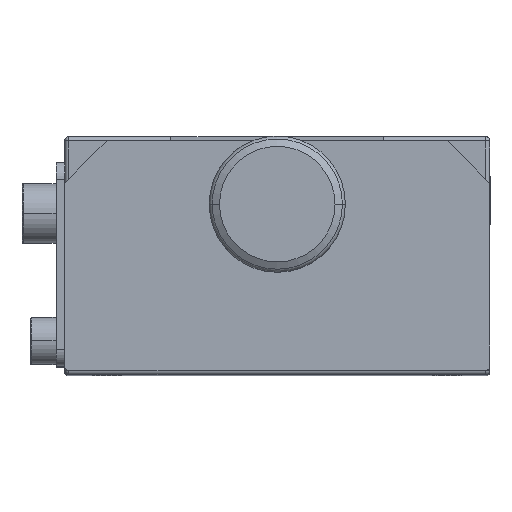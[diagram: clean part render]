
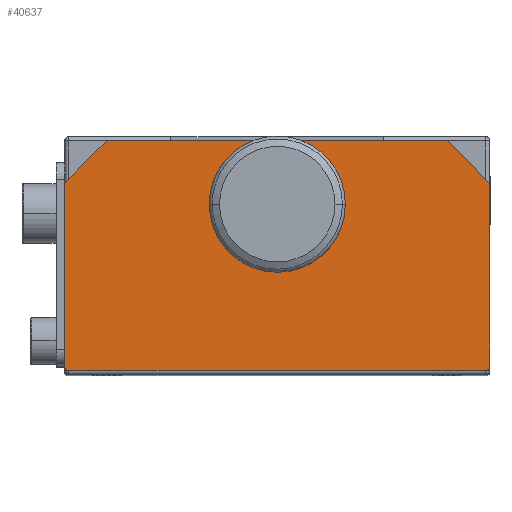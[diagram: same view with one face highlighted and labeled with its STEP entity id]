
A CAD part, top view. The second image highlights one B-rep face of the part: STEP entity #40637.
In plain terms, the highlighted planar face has unit normal (0, 0, 1).
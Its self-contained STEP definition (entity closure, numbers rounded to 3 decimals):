
#921 = VERTEX_POINT ( 'NONE', #40261 ) ;
#1006 = VERTEX_POINT ( 'NONE', #40992 ) ;
#1349 = VERTEX_POINT ( 'NONE', #52872 ) ;
#1431 = AXIS2_PLACEMENT_3D ( 'NONE', #35340, #5668, #40344 ) ;
#4192 = EDGE_CURVE ( 'NONE', #48532, #48768, #59375, .T. ) ;
#4399 = ORIENTED_EDGE ( 'NONE', *, *, #24925, .F. ) ;
#4800 = LINE ( 'NONE', #40225, #55991 ) ;
#4929 = DIRECTION ( 'NONE',  ( 0., 0., 1. ) ) ;
#5203 = VERTEX_POINT ( 'NONE', #42140 ) ;
#5289 = CARTESIAN_POINT ( 'NONE',  ( 0.05, 19.49, 48. ) ) ;
#5668 = DIRECTION ( 'NONE',  ( 0., 0., 1. ) ) ;
#6253 = DIRECTION ( 'NONE',  ( 1., 0., 0. ) ) ;
#6436 = CARTESIAN_POINT ( 'NONE',  ( 25., 14.5, 48. ) ) ;
#7200 = EDGE_CURVE ( 'NONE', #1349, #921, #61438, .T. ) ;
#9247 = LINE ( 'NONE', #57114, #12407 ) ;
#9645 = VERTEX_POINT ( 'NONE', #6436 ) ;
#9817 = EDGE_CURVE ( 'NONE', #35774, #1006, #57412, .T. ) ;
#9920 = DIRECTION ( 'NONE',  ( 0., -1., 0. ) ) ;
#10209 = VERTEX_POINT ( 'NONE', #33707 ) ;
#10502 = AXIS2_PLACEMENT_3D ( 'NONE', #24636, #59252, #29647 ) ;
#11048 = CARTESIAN_POINT ( 'NONE',  ( 0., 10., 48. ) ) ;
#11450 = ORIENTED_EDGE ( 'NONE', *, *, #42864, .T. ) ;
#12407 = VECTOR ( 'NONE', #22682, 1000. ) ;
#12757 = CARTESIAN_POINT ( 'NONE',  ( -24.5, -7., 48. ) ) ;
#12775 = DIRECTION ( 'NONE',  ( -0.707, -0.707, 0. ) ) ;
#13856 = CARTESIAN_POINT ( 'NONE',  ( -25., -7., 48. ) ) ;
#14001 = CARTESIAN_POINT ( 'NONE',  ( 0., 12., 48. ) ) ;
#14179 = LINE ( 'NONE', #45048, #27370 ) ;
#15085 = DIRECTION ( 'NONE',  ( 0., 0., 1. ) ) ;
#15604 = CARTESIAN_POINT ( 'NONE',  ( 0.05, 19.49, 48. ) ) ;
#17008 = ORIENTED_EDGE ( 'NONE', *, *, #63878, .F. ) ;
#17474 = EDGE_CURVE ( 'NONE', #23591, #35774, #33006, .T. ) ;
#18971 = DIRECTION ( 'NONE',  ( 1., 0., 0. ) ) ;
#20348 = DIRECTION ( 'NONE',  ( 0., 1., 0. ) ) ;
#20468 = CARTESIAN_POINT ( 'NONE',  ( 0.05, 19.5, 48. ) ) ;
#20500 = DIRECTION ( 'NONE',  ( -0.707, 0.707, 0. ) ) ;
#20727 = AXIS2_PLACEMENT_3D ( 'NONE', #14001, #48661, #18971 ) ;
#21255 = CARTESIAN_POINT ( 'NONE',  ( 24.5, -7.5, 48. ) ) ;
#21298 = EDGE_CURVE ( 'NONE', #9645, #48532, #4800, .T. ) ;
#21499 = CARTESIAN_POINT ( 'NONE',  ( 25., -7., 48. ) ) ;
#21517 = DIRECTION ( 'NONE',  ( 0., -1., 0. ) ) ;
#21648 = CARTESIAN_POINT ( 'NONE',  ( -25., -7.5, 48. ) ) ;
#21687 = VECTOR ( 'NONE', #26648, 1000. ) ;
#22415 = AXIS2_PLACEMENT_3D ( 'NONE', #12757, #4929, #9920 ) ;
#22682 = DIRECTION ( 'NONE',  ( 0., 1., 0. ) ) ;
#23092 = ORIENTED_EDGE ( 'NONE', *, *, #21298, .T. ) ;
#23591 = VERTEX_POINT ( 'NONE', #34142 ) ;
#23660 = VERTEX_POINT ( 'NONE', #5289 ) ;
#24636 = CARTESIAN_POINT ( 'NONE',  ( 24.5, -7., 48. ) ) ;
#24698 = EDGE_CURVE ( 'NONE', #921, #23591, #53222, .T. ) ;
#24915 = AXIS2_PLACEMENT_3D ( 'NONE', #40226, #15085, #49719 ) ;
#24925 = EDGE_CURVE ( 'NONE', #23660, #48768, #60087, .T. ) ;
#25495 = PLANE ( 'NONE',  #24915 ) ;
#25869 = CIRCLE ( 'NONE', #10502, 0.5 ) ;
#26648 = DIRECTION ( 'NONE',  ( 1., 0., 0. ) ) ;
#27262 = ORIENTED_EDGE ( 'NONE', *, *, #17474, .T. ) ;
#27370 = VECTOR ( 'NONE', #20348, 1000. ) ;
#28469 = ORIENTED_EDGE ( 'NONE', *, *, #9817, .T. ) ;
#29094 = LINE ( 'NONE', #15604, #43822 ) ;
#29227 = FACE_OUTER_BOUND ( 'NONE', #41872, .T. ) ;
#29647 = DIRECTION ( 'NONE',  ( 0., -1., 0. ) ) ;
#30707 = EDGE_CURVE ( 'NONE', #55155, #9645, #9247, .T. ) ;
#32102 = ORIENTED_EDGE ( 'NONE', *, *, #7200, .T. ) ;
#32445 = EDGE_CURVE ( 'NONE', #5203, #23660, #29094, .T. ) ;
#32834 = CARTESIAN_POINT ( 'NONE',  ( 0.05, 19.49, 48. ) ) ;
#33006 = LINE ( 'NONE', #41243, #47752 ) ;
#33707 = CARTESIAN_POINT ( 'NONE',  ( 0., 14., 48. ) ) ;
#34142 = CARTESIAN_POINT ( 'NONE',  ( -25., 14.5, 48. ) ) ;
#34739 = VERTEX_POINT ( 'NONE', #11048 ) ;
#35340 = CARTESIAN_POINT ( 'NONE',  ( 0., 12., 48. ) ) ;
#35774 = VERTEX_POINT ( 'NONE', #13856 ) ;
#36925 = ORIENTED_EDGE ( 'NONE', *, *, #24698, .T. ) ;
#37196 = EDGE_LOOP ( 'NONE', ( #17008, #55147 ) ) ;
#38194 = CARTESIAN_POINT ( 'NONE',  ( -25., 19.5, 48. ) ) ;
#38388 = ORIENTED_EDGE ( 'NONE', *, *, #45294, .T. ) ;
#39412 = CIRCLE ( 'NONE', #20727, 2. ) ;
#40225 = CARTESIAN_POINT ( 'NONE',  ( 11., 28.5, 48. ) ) ;
#40226 = CARTESIAN_POINT ( 'NONE',  ( -25., -7.5, 48. ) ) ;
#40261 = CARTESIAN_POINT ( 'NONE',  ( -20., 19.5, 48. ) ) ;
#40344 = DIRECTION ( 'NONE',  ( 1., 0., 0. ) ) ;
#40637 = ADVANCED_FACE ( 'NONE', ( #29227, #52492 ), #25495, .T. ) ;
#40957 = DIRECTION ( 'NONE',  ( -1., 0., 0. ) ) ;
#40992 = CARTESIAN_POINT ( 'NONE',  ( -24.5, -7.5, 48. ) ) ;
#41243 = CARTESIAN_POINT ( 'NONE',  ( -25., 19.5, 48. ) ) ;
#41872 = EDGE_LOOP ( 'NONE', ( #27262, #28469, #38388, #50334, #51637, #23092, #56828, #4399, #54171, #11450, #32102, #36925 ) ) ;
#42140 = CARTESIAN_POINT ( 'NONE',  ( -0.05, 19.49, 48. ) ) ;
#42864 = EDGE_CURVE ( 'NONE', #5203, #1349, #14179, .T. ) ;
#43822 = VECTOR ( 'NONE', #6253, 1000. ) ;
#45048 = CARTESIAN_POINT ( 'NONE',  ( -0.05, 19.49, 48. ) ) ;
#45294 = EDGE_CURVE ( 'NONE', #1006, #53016, #46513, .T. ) ;
#45327 = DIRECTION ( 'NONE',  ( -1., 0., 0. ) ) ;
#46513 = LINE ( 'NONE', #21648, #21687 ) ;
#47752 = VECTOR ( 'NONE', #21517, 1000. ) ;
#47792 = DIRECTION ( 'NONE',  ( 0., 1., 0. ) ) ;
#48294 = CARTESIAN_POINT ( 'NONE',  ( 20., 19.5, 48. ) ) ;
#48532 = VERTEX_POINT ( 'NONE', #48294 ) ;
#48661 = DIRECTION ( 'NONE',  ( 0., 0., 1. ) ) ;
#48768 = VERTEX_POINT ( 'NONE', #20468 ) ;
#49719 = DIRECTION ( 'NONE',  ( 0., -1., 0. ) ) ;
#49861 = CARTESIAN_POINT ( 'NONE',  ( -25., 19.5, 48. ) ) ;
#50334 = ORIENTED_EDGE ( 'NONE', *, *, #53335, .T. ) ;
#51637 = ORIENTED_EDGE ( 'NONE', *, *, #30707, .T. ) ;
#51668 = VECTOR ( 'NONE', #12775, 1000. ) ;
#52492 = FACE_BOUND ( 'NONE', #37196, .T. ) ;
#52872 = CARTESIAN_POINT ( 'NONE',  ( -0.05, 19.5, 48. ) ) ;
#53016 = VERTEX_POINT ( 'NONE', #21255 ) ;
#53222 = LINE ( 'NONE', #62053, #51668 ) ;
#53335 = EDGE_CURVE ( 'NONE', #53016, #55155, #25869, .T. ) ;
#54041 = EDGE_CURVE ( 'NONE', #10209, #34739, #62171, .T. ) ;
#54171 = ORIENTED_EDGE ( 'NONE', *, *, #32445, .F. ) ;
#55147 = ORIENTED_EDGE ( 'NONE', *, *, #54041, .F. ) ;
#55155 = VERTEX_POINT ( 'NONE', #21499 ) ;
#55991 = VECTOR ( 'NONE', #20500, 1000. ) ;
#56828 = ORIENTED_EDGE ( 'NONE', *, *, #4192, .T. ) ;
#57059 = VECTOR ( 'NONE', #47792, 1000. ) ;
#57114 = CARTESIAN_POINT ( 'NONE',  ( 25., 19.5, 48. ) ) ;
#57412 = CIRCLE ( 'NONE', #22415, 0.5 ) ;
#57894 = VECTOR ( 'NONE', #45327, 1000. ) ;
#59252 = DIRECTION ( 'NONE',  ( 0., 0., 1. ) ) ;
#59375 = LINE ( 'NONE', #49861, #57894 ) ;
#59866 = VECTOR ( 'NONE', #40957, 1000. ) ;
#60087 = LINE ( 'NONE', #32834, #57059 ) ;
#61438 = LINE ( 'NONE', #38194, #59866 ) ;
#62053 = CARTESIAN_POINT ( 'NONE',  ( -36., 3.5, 48. ) ) ;
#62171 = CIRCLE ( 'NONE', #1431, 2. ) ;
#63878 = EDGE_CURVE ( 'NONE', #34739, #10209, #39412, .T. ) ;
